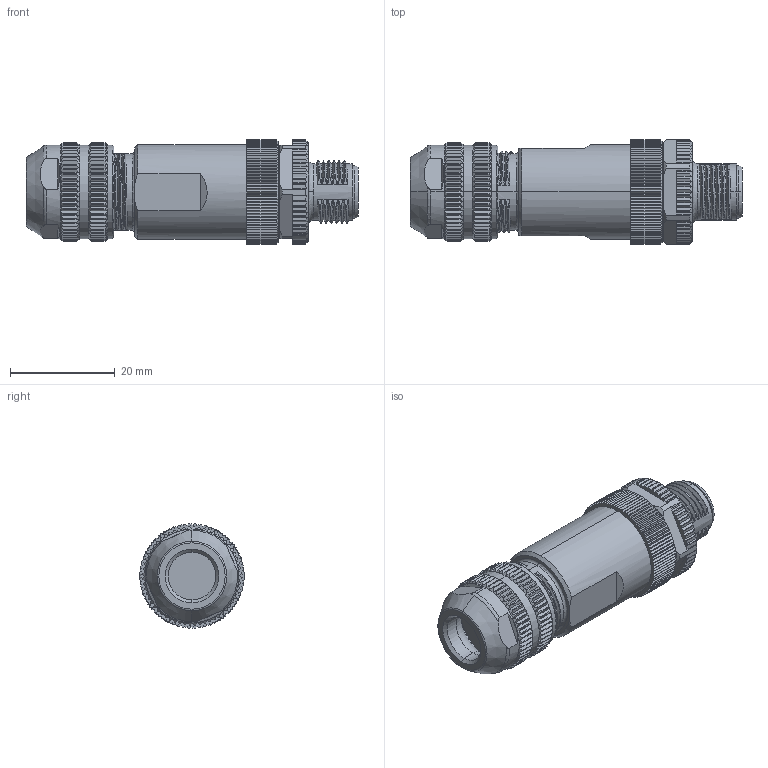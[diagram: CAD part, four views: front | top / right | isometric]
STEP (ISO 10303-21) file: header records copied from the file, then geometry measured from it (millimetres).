
FILE_DESCRIPTION (( 'STEP AP203' ), '1' );
FILE_NAME ('64F521.STEP', '2023-04-04T03:27:37', ( '' ), ( '' ), 'SwSTEP 2.0', 'SolidWorks 2016', '' );
FILE_SCHEMA (( 'CONFIG_CONTROL_DESIGN' ));
Products named in the file (1): 64F521
Bounding box: 63.5 x 20 x 20 mm (x, y, z)
Volume: 12109.3 mm3; surface area: 7793.6 mm2
Topology: 1 solids, 4 shells, 1380 faces, 3778 edges, 2435 vertices
Faces by surface type: plane 683, cylinder 389, cone 182, bspline 114, torus 12
Entity records: 61979 total; most frequent: CARTESIAN_POINT 30237, ORIENTED_EDGE 7550, DIRECTION 5341, EDGE_CURVE 3775, VERTEX_POINT 2435, AXIS2_PLACEMENT_3D 2110, B_SPLINE_CURVE_WITH_KNOTS 1785, EDGE_LOOP 1420
